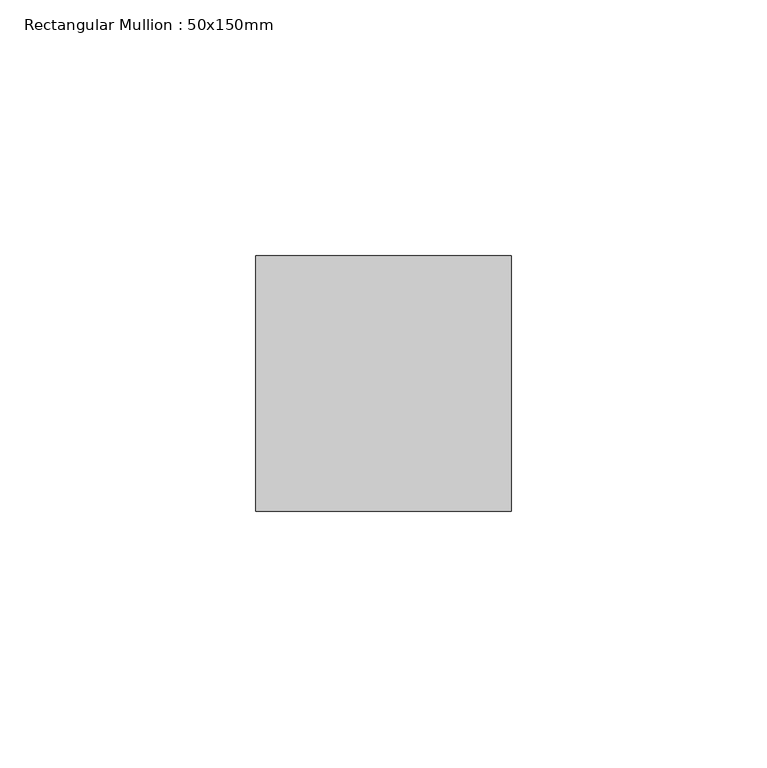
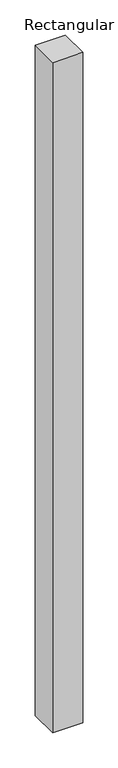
"""IFC4 building model written with IfcOpenShell, lengths in millimetres: member geometry, Rectangular Mullion : 50x150mm."""

from ifc_helpers import new_model, si_unit, frame, origin, place, context, project, spatial, polyline, outline, extrude, source, transform, mapped, element, save


def rectangular_mullion_50x150mm_495123ae(model_context):
    return source(origin(), model_context, "Body", "SweptSolid", [
        extrude(outline(polyline([(0.0, 25.0), (0.0, -25.0), (-50.0, -25.0), (-50.0, 25.0), (0.0, 25.0)])), frame((0.0, 0.0, -1167.6429689), z_axis=(0.0, 0.0, 1.0), x_axis=(1.0, 0.0, 0.0)), (0.0, 0.0, 1.0), 1167.6429689),
    ])


if __name__ == "__main__":
    model = new_model("IFC4")
    model_context = context("Model", 3, world=origin())
    ifc_project = project(units=[si_unit("LENGTHUNIT", "METRE", prefix="MILLI")], contexts=[model_context])
    site = spatial("IfcSite", under=ifc_project)
    building = spatial("IfcBuilding", under=site)
    placement = place(None, origin())
    rectangular_mullion_50x150mm_shape = rectangular_mullion_50x150mm_495123ae(model_context)
    element("IfcMember", 1, ObjectType="Rectangular Mullion : 50x150mm", at=placement, inside=building, context=model_context, shape_type="MappedRepresentation", body=[
        mapped(rectangular_mullion_50x150mm_shape, transform((0.0, 0.0, 0.0), x_axis=(1.0, 0.0, 0.0), y_axis=(0.0, 1.0, 0.0), z_axis=(0.0, 0.0, 1.0))),
    ])
    save(model, "model.ifc")
